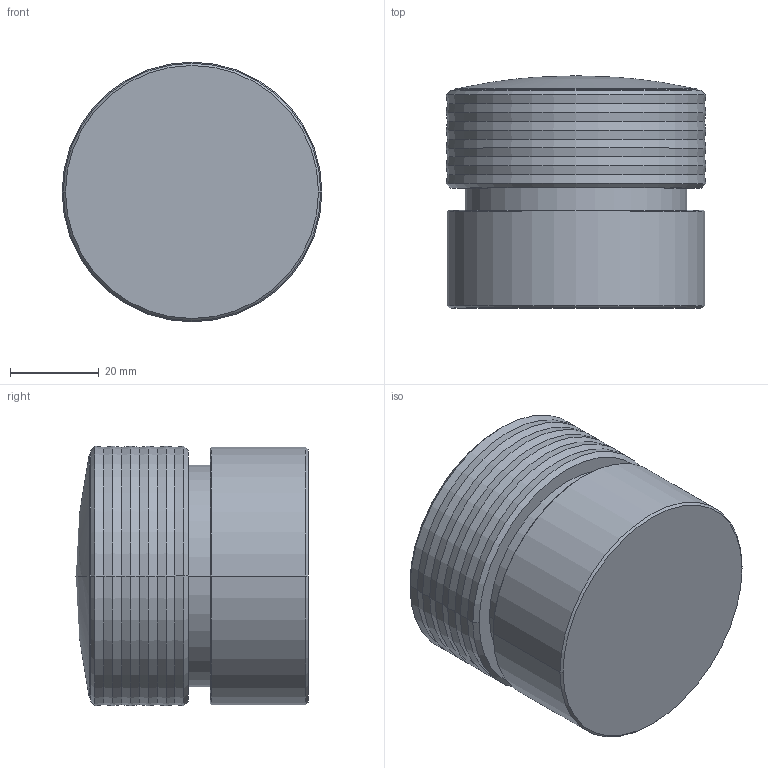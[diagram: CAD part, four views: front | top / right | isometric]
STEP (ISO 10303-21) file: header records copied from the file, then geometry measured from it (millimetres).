
FILE_DESCRIPTION((''),'2;1');
FILE_NAME('F5613_1_FILE_3D','2015-04-24T',('ivanv'),(''),'PRO/ENGINEER BY PARAMETRIC TECHNOLOGY CORPORATION, 2012130','PRO/ENGINEER BY PARAMETRIC TECHNOLOGY CORPORATION, 2012130','');
FILE_SCHEMA(('CONFIG_CONTROL_DESIGN'));
Length unit declared in the file: millimetre
Products named in the file (1): F5613_1_FILE_3D
Bounding box: 58.5 x 52.3 x 58.5 mm (x, y, z)
Volume: 90661.2 mm3; surface area: 29993.7 mm2
Topology: 1 solids, 3 shells, 67 faces, 130 edges, 73 vertices
Faces by surface type: cone 34, cylinder 16, plane 11, torus 4, sphere 2
Entity records: 1718 total; most frequent: DIRECTION 340, CARTESIAN_POINT 268, ORIENTED_EDGE 256, AXIS2_PLACEMENT_3D 145, EDGE_CURVE 128, CIRCLE 78, VERTEX_POINT 73, EDGE_LOOP 73
